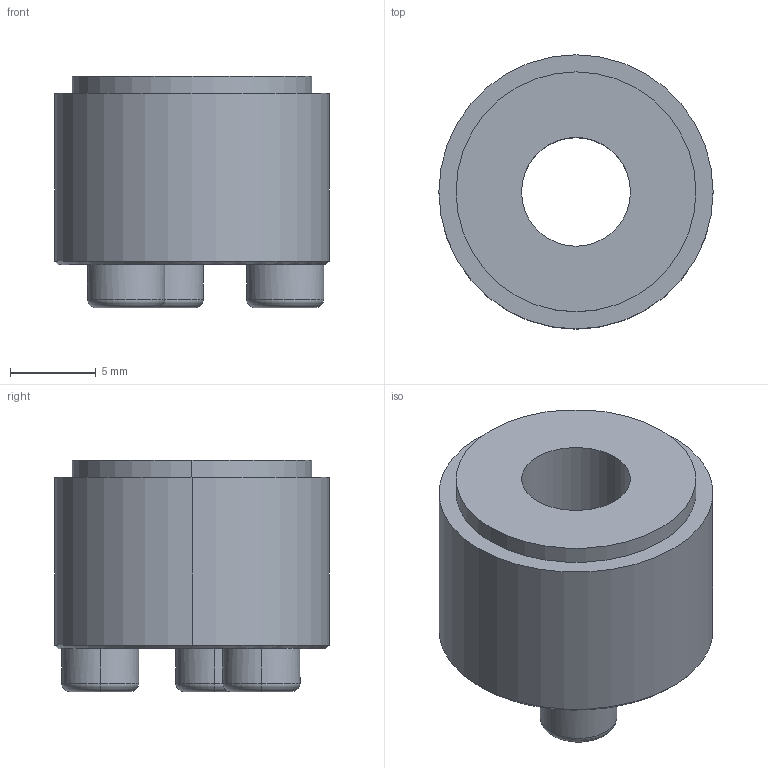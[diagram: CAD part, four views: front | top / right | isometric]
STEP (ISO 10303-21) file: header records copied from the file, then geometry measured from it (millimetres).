
FILE_DESCRIPTION (( 'STEP AP203' ), '1' );
FILE_NAME ('PL-B 6.35-16.STEP', '2021-10-22T07:43:39', ( '' ), ( '' ), 'SwSTEP 2.0', 'SolidWorks 2018', '' );
FILE_SCHEMA (( 'CONFIG_CONTROL_DESIGN' ));
Length unit declared in the file: millimetre
Products named in the file (1): PL-B 6.35-16
Bounding box: 16 x 16 x 13.5 mm (x, y, z)
Volume: 1920.5 mm3; surface area: 1216.2 mm2
Topology: 1 solids, 1 shells, 51 faces, 128 edges, 82 vertices
Faces by surface type: plane 29, cylinder 12, torus 6, cone 4
Entity records: 1633 total; most frequent: CARTESIAN_POINT 292, DIRECTION 278, ORIENTED_EDGE 256, EDGE_CURVE 128, AXIS2_PLACEMENT_3D 104, VERTEX_POINT 82, LINE 70, VECTOR 70
